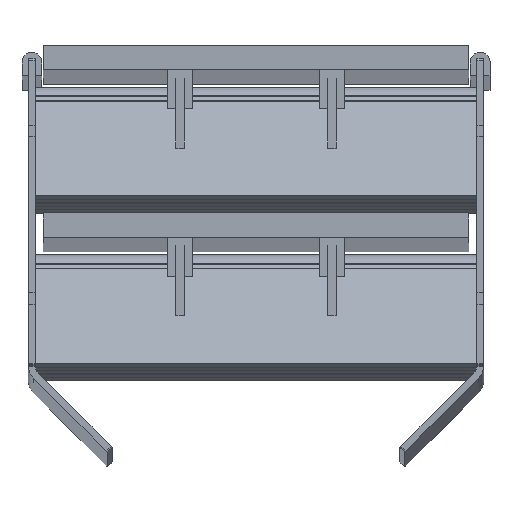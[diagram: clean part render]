
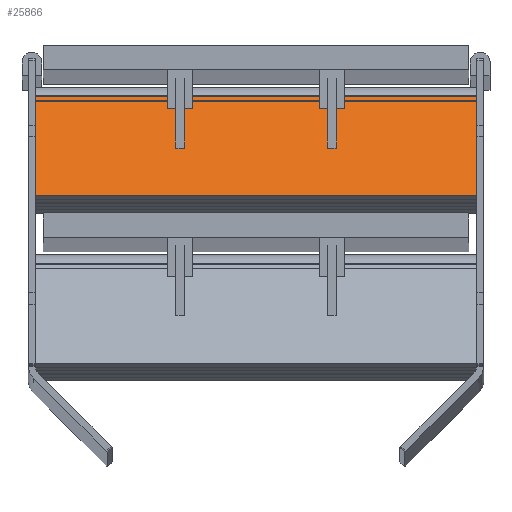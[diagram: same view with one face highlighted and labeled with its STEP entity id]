
A CAD part, top view. The second image highlights one B-rep face of the part: STEP entity #25866.
In plain terms, the highlighted planar face has unit normal (0, 0.5, 0.866).
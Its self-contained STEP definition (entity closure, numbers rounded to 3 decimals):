
#2257 = CARTESIAN_POINT ( 'NONE',  ( 79., -53.584, 2923.962 ) ) ;
#2506 = VERTEX_POINT ( 'NONE', #38797 ) ;
#4045 = DIRECTION ( 'NONE',  ( -1., 0., 0. ) ) ;
#4364 = LINE ( 'NONE', #33675, #30267 ) ;
#5555 = VECTOR ( 'NONE', #4045, 1000. ) ;
#6998 = EDGE_CURVE ( 'NONE', #21369, #49153, #18853, .T. ) ;
#7102 = DIRECTION ( 'NONE',  ( 0., -0.866, 0.5 ) ) ;
#9429 = VECTOR ( 'NONE', #7102, 1000. ) ;
#9830 = CARTESIAN_POINT ( 'NONE',  ( -79., -18.25, 2903.562 ) ) ;
#9962 = EDGE_CURVE ( 'NONE', #2506, #21369, #15778, .T. ) ;
#12917 = DIRECTION ( 'NONE',  ( 0., -0.866, 0.5 ) ) ;
#15073 = ORIENTED_EDGE ( 'NONE', *, *, #34602, .T. ) ;
#15778 = LINE ( 'NONE', #36358, #9429 ) ;
#15900 = PLANE ( 'NONE',  #20774 ) ;
#18853 = LINE ( 'NONE', #2257, #47209 ) ;
#20257 = CARTESIAN_POINT ( 'NONE',  ( 79., -53.584, 2923.962 ) ) ;
#20774 = AXIS2_PLACEMENT_3D ( 'NONE', #20257, #24591, #12917 ) ;
#21369 = VERTEX_POINT ( 'NONE', #21543 ) ;
#21543 = CARTESIAN_POINT ( 'NONE',  ( 79., -53.584, 2923.962 ) ) ;
#24591 = DIRECTION ( 'NONE',  ( 0., -0.5, -0.866 ) ) ;
#25866 = ADVANCED_FACE ( 'NONE', ( #41109 ), #15900, .F. ) ;
#28057 = EDGE_CURVE ( 'NONE', #2506, #51098, #52677, .T. ) ;
#30267 = VECTOR ( 'NONE', #37450, 1000. ) ;
#32553 = CARTESIAN_POINT ( 'NONE',  ( 79., -18.25, 2903.562 ) ) ;
#33675 = CARTESIAN_POINT ( 'NONE',  ( -79., -53.584, 2923.962 ) ) ;
#34602 = EDGE_CURVE ( 'NONE', #51098, #49153, #4364, .T. ) ;
#35731 = ORIENTED_EDGE ( 'NONE', *, *, #6998, .F. ) ;
#36358 = CARTESIAN_POINT ( 'NONE',  ( 79., -53.584, 2923.962 ) ) ;
#37450 = DIRECTION ( 'NONE',  ( 0., -0.866, 0.5 ) ) ;
#38742 = EDGE_LOOP ( 'NONE', ( #40416, #15073, #35731, #51310 ) ) ;
#38797 = CARTESIAN_POINT ( 'NONE',  ( 79., -18.25, 2903.562 ) ) ;
#40416 = ORIENTED_EDGE ( 'NONE', *, *, #28057, .T. ) ;
#41109 = FACE_OUTER_BOUND ( 'NONE', #38742, .T. ) ;
#45262 = CARTESIAN_POINT ( 'NONE',  ( -79., -53.584, 2923.962 ) ) ;
#47209 = VECTOR ( 'NONE', #47884, 1000. ) ;
#47884 = DIRECTION ( 'NONE',  ( -1., 0., 0. ) ) ;
#49153 = VERTEX_POINT ( 'NONE', #45262 ) ;
#51098 = VERTEX_POINT ( 'NONE', #9830 ) ;
#51310 = ORIENTED_EDGE ( 'NONE', *, *, #9962, .F. ) ;
#52677 = LINE ( 'NONE', #32553, #5555 ) ;
